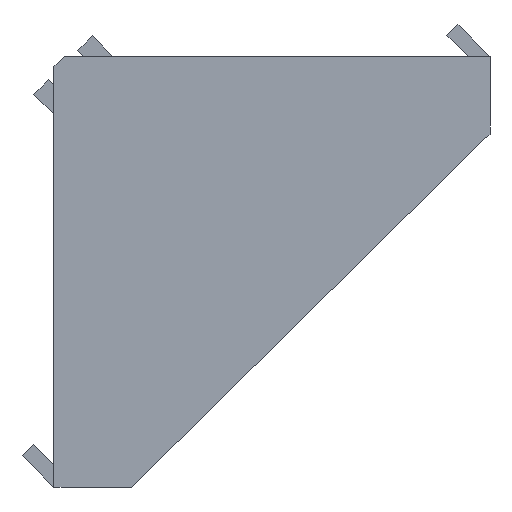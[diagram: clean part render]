
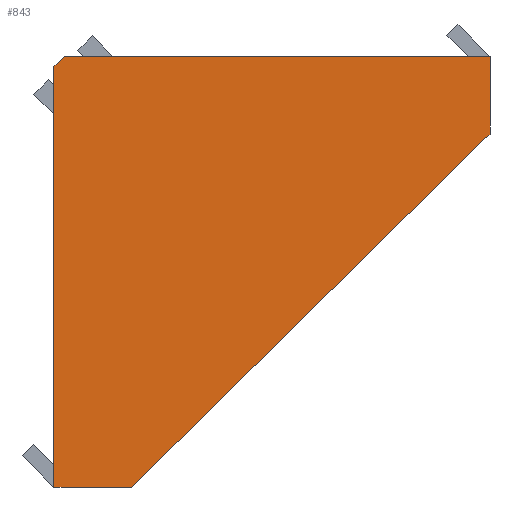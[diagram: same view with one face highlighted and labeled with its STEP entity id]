
A CAD part, left-side view. The second image highlights one B-rep face of the part: STEP entity #843.
In plain terms, the highlighted planar face has unit normal (-1, 0, 0).
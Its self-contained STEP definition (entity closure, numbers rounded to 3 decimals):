
#27 = EDGE_CURVE ( 'NONE', #590, #2479, #1534, .T. ) ;
#45 = CARTESIAN_POINT ( 'NONE',  ( -55.284, 7.5, 2.075 ) ) ;
#541 = VECTOR ( 'NONE', #1083, 1000. ) ;
#590 = VERTEX_POINT ( 'NONE', #1637 ) ;
#613 = ORIENTED_EDGE ( 'NONE', *, *, #2875, .F. ) ;
#626 = VERTEX_POINT ( 'NONE', #822 ) ;
#635 = VECTOR ( 'NONE', #2196, 1000. ) ;
#727 = CARTESIAN_POINT ( 'NONE',  ( -55.284, -34.5, 2.075 ) ) ;
#787 = AXIS2_PLACEMENT_3D ( 'NONE', #2707, #1034, #2977 ) ;
#822 = CARTESIAN_POINT ( 'NONE',  ( -55.284, 7.5, 1.075 ) ) ;
#843 = ADVANCED_FACE ( 'NONE', ( #2653 ), #2123, .F. ) ;
#944 = VERTEX_POINT ( 'NONE', #2212 ) ;
#1034 = DIRECTION ( 'NONE',  ( 1., 0., 0. ) ) ;
#1083 = DIRECTION ( 'NONE',  ( 0., -0.712, 0.702 ) ) ;
#1159 = EDGE_LOOP ( 'NONE', ( #2555, #2220, #1521, #2518, #1415, #613 ) ) ;
#1231 = DIRECTION ( 'NONE',  ( 0., -1., 0. ) ) ;
#1298 = VECTOR ( 'NONE', #3006, 1000. ) ;
#1305 = LINE ( 'NONE', #45, #2702 ) ;
#1356 = CARTESIAN_POINT ( 'NONE',  ( -55.284, -34.5, 2.075 ) ) ;
#1371 = VERTEX_POINT ( 'NONE', #2002 ) ;
#1415 = ORIENTED_EDGE ( 'NONE', *, *, #3018, .T. ) ;
#1521 = ORIENTED_EDGE ( 'NONE', *, *, #2327, .F. ) ;
#1534 = LINE ( 'NONE', #2624, #3015 ) ;
#1637 = CARTESIAN_POINT ( 'NONE',  ( -55.284, 7.5, -39.425 ) ) ;
#1828 = VERTEX_POINT ( 'NONE', #1356 ) ;
#1919 = CARTESIAN_POINT ( 'NONE',  ( -55.284, 7.5, 1.075 ) ) ;
#2002 = CARTESIAN_POINT ( 'NONE',  ( -55.284, 6.5, 2.075 ) ) ;
#2095 = LINE ( 'NONE', #1919, #635 ) ;
#2123 = PLANE ( 'NONE',  #787 ) ;
#2196 = DIRECTION ( 'NONE',  ( 0., 0.707, -0.707 ) ) ;
#2212 = CARTESIAN_POINT ( 'NONE',  ( -55.284, -34.5, -5.393 ) ) ;
#2220 = ORIENTED_EDGE ( 'NONE', *, *, #3401, .T. ) ;
#2327 = EDGE_CURVE ( 'NONE', #590, #626, #3518, .T. ) ;
#2463 = VECTOR ( 'NONE', #2954, 1000. ) ;
#2479 = VERTEX_POINT ( 'NONE', #2526 ) ;
#2518 = ORIENTED_EDGE ( 'NONE', *, *, #27, .T. ) ;
#2526 = CARTESIAN_POINT ( 'NONE',  ( -55.284, 0., -39.425 ) ) ;
#2540 = EDGE_CURVE ( 'NONE', #1371, #1828, #1305, .T. ) ;
#2554 = DIRECTION ( 'NONE',  ( 0., -1., 0. ) ) ;
#2555 = ORIENTED_EDGE ( 'NONE', *, *, #2540, .F. ) ;
#2624 = CARTESIAN_POINT ( 'NONE',  ( -55.284, 7.5, -39.425 ) ) ;
#2653 = FACE_OUTER_BOUND ( 'NONE', #1159, .T. ) ;
#2702 = VECTOR ( 'NONE', #2554, 1000. ) ;
#2707 = CARTESIAN_POINT ( 'NONE',  ( -55.284, 7.5, -39.425 ) ) ;
#2735 = CARTESIAN_POINT ( 'NONE',  ( -55.284, 7.5, -39.425 ) ) ;
#2875 = EDGE_CURVE ( 'NONE', #1828, #944, #3204, .T. ) ;
#2954 = DIRECTION ( 'NONE',  ( 0., 0., -1. ) ) ;
#2977 = DIRECTION ( 'NONE',  ( 0., 0., -1. ) ) ;
#3006 = DIRECTION ( 'NONE',  ( 0., 0., 1. ) ) ;
#3015 = VECTOR ( 'NONE', #1231, 1000. ) ;
#3018 = EDGE_CURVE ( 'NONE', #2479, #944, #3428, .T. ) ;
#3025 = CARTESIAN_POINT ( 'NONE',  ( -55.284, -34.5, -5.393 ) ) ;
#3204 = LINE ( 'NONE', #727, #2463 ) ;
#3401 = EDGE_CURVE ( 'NONE', #1371, #626, #2095, .T. ) ;
#3428 = LINE ( 'NONE', #3025, #541 ) ;
#3518 = LINE ( 'NONE', #2735, #1298 ) ;
